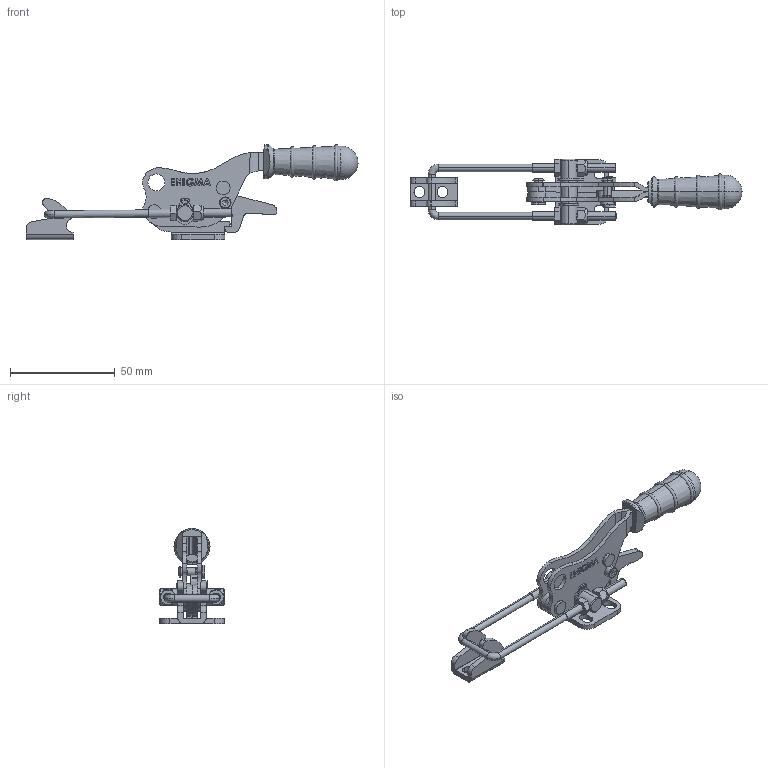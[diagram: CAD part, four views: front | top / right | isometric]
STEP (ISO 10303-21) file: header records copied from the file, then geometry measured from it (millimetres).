
FILE_DESCRIPTION (( 'STEP AP203' ), '1' );
FILE_NAME ('13104-Y-K.STEP', '2023-07-11T12:41:34', ( '' ), ( '' ), 'SwSTEP 2.0', 'SolidWorks 2023', '' );
FILE_SCHEMA (( 'CONFIG_CONTROL_DESIGN' ));
Length unit declared in the file: millimetre
Products named in the file (1): 13104-Y-K
Bounding box: 158.59 x 31.5 x 45.44 mm (x, y, z)
Volume: 21684.4 mm3; surface area: 21548.1 mm2
Topology: 19 solids, 19 shells, 763 faces, 1981 edges, 1282 vertices
Faces by surface type: plane 381, cylinder 226, cone 75, torus 40, bspline 39, sphere 2
Entity records: 26303 total; most frequent: CARTESIAN_POINT 7523, ORIENTED_EDGE 3946, DIRECTION 3808, EDGE_CURVE 1973, AXIS2_PLACEMENT_3D 1333, VERTEX_POINT 1278, VECTOR 1142, LINE 1142
